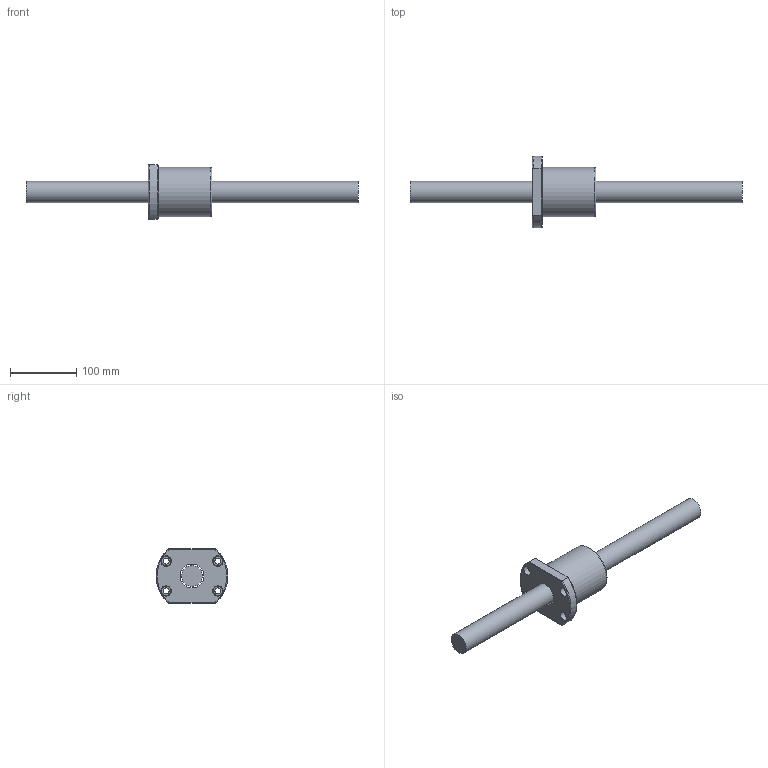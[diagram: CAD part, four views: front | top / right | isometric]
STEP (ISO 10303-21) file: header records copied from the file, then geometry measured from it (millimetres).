
FILE_DESCRIPTION (( 'STEP AP203' ), '1' );
FILE_NAME ('SFV03210D-4.8.step', '2024-05-20T03:39:14', ( '' ), ( '' ), 'SwSTEP 2.0', 'SolidWorks 2022', '' );
FILE_SCHEMA (( 'CONFIG_CONTROL_DESIGN' ));
Length unit declared in the file: millimetre
Products named in the file (1): SFV03210D-4.8
Bounding box: 500 x 108 x 82 mm (x, y, z)
Volume: 762658.7 mm3; surface area: 101949.4 mm2
Topology: 2 solids, 2 shells, 56 faces, 148 edges, 97 vertices
Faces by surface type: cylinder 21, plane 16, cone 9, bspline 5, torus 5
Full cylindrical faces by diameter (mm): 4 x1, 7 x6, 9 x4, 14 x4, 32 x1, 36.1 x1, 74 x1
Entity records: 3988 total; most frequent: CARTESIAN_POINT 2896, DIRECTION 196, ORIENTED_EDGE 186, EDGE_CURVE 93, AXIS2_PLACEMENT_3D 91, EDGE_LOOP 86, VERTEX_POINT 73, FACE_OUTER_BOUND 64
